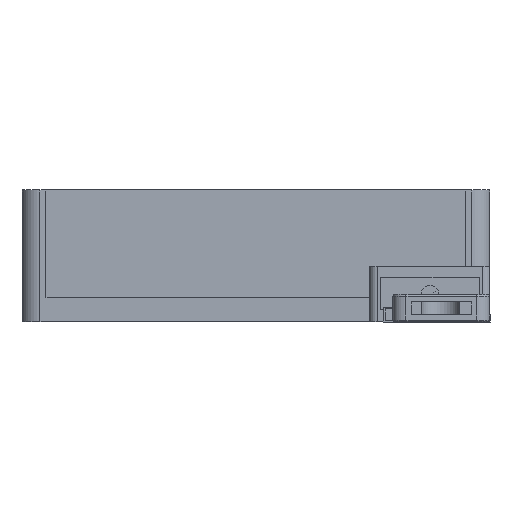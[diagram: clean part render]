
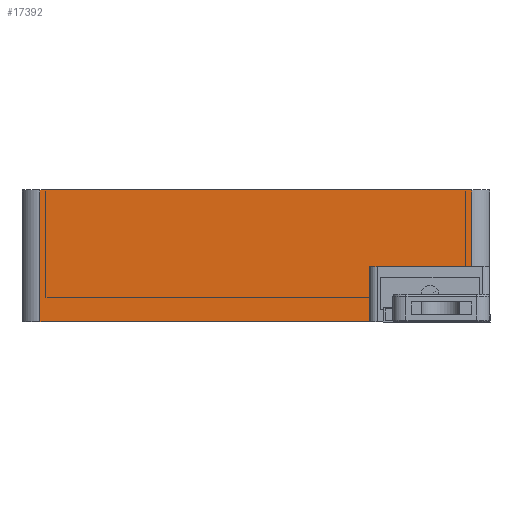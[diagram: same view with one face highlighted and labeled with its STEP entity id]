
A CAD part, left-side view. The second image highlights one B-rep face of the part: STEP entity #17392.
In plain terms, the highlighted planar face has unit normal (-1, 0, 0).
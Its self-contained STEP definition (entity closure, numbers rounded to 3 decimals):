
#17392 = ADVANCED_FACE('',(#17393),#17407,.F.);
#17393 = FACE_BOUND('',#17394,.F.);
#17394 = EDGE_LOOP('',(#17395,#17430,#17458,#17486));
#17395 = ORIENTED_EDGE('',*,*,#17396,.F.);
#17396 = EDGE_CURVE('',#17397,#17399,#17401,.T.);
#17397 = VERTEX_POINT('',#17398);
#17398 = CARTESIAN_POINT('',(-84.,-36.,11.));
#17399 = VERTEX_POINT('',#17400);
#17400 = CARTESIAN_POINT('',(-84.,36.,11.));
#17401 = SURFACE_CURVE('',#17402,(#17406,#17418),.PCURVE_S1.);
#17402 = LINE('',#17403,#17404);
#17403 = CARTESIAN_POINT('',(-84.,-39.,11.));
#17404 = VECTOR('',#17405,1.);
#17405 = DIRECTION('',(0.,1.,0.));
#17406 = PCURVE('',#17407,#17412);
#17407 = PLANE('',#17408);
#17408 = AXIS2_PLACEMENT_3D('',#17409,#17410,#17411);
#17409 = CARTESIAN_POINT('',(-84.,-39.,-11.));
#17410 = DIRECTION('',(1.,0.,0.));
#17411 = DIRECTION('',(0.,0.,1.));
#17412 = DEFINITIONAL_REPRESENTATION('',(#17413),#17417);
#17413 = LINE('',#17414,#17415);
#17414 = CARTESIAN_POINT('',(22.,0.));
#17415 = VECTOR('',#17416,1.);
#17416 = DIRECTION('',(0.,-1.));
#17417 = ( GEOMETRIC_REPRESENTATION_CONTEXT(2) 
PARAMETRIC_REPRESENTATION_CONTEXT() REPRESENTATION_CONTEXT('2D SPACE',''
  ) );
#17418 = PCURVE('',#17419,#17424);
#17419 = PLANE('',#17420);
#17420 = AXIS2_PLACEMENT_3D('',#17421,#17422,#17423);
#17421 = CARTESIAN_POINT('',(-84.,-39.,11.));
#17422 = DIRECTION('',(0.,0.,1.));
#17423 = DIRECTION('',(1.,0.,0.));
#17424 = DEFINITIONAL_REPRESENTATION('',(#17425),#17429);
#17425 = LINE('',#17426,#17427);
#17426 = CARTESIAN_POINT('',(0.,0.));
#17427 = VECTOR('',#17428,1.);
#17428 = DIRECTION('',(0.,1.));
#17429 = ( GEOMETRIC_REPRESENTATION_CONTEXT(2) 
PARAMETRIC_REPRESENTATION_CONTEXT() REPRESENTATION_CONTEXT('2D SPACE',''
  ) );
#17430 = ORIENTED_EDGE('',*,*,#17431,.F.);
#17431 = EDGE_CURVE('',#17432,#17397,#17434,.T.);
#17432 = VERTEX_POINT('',#17433);
#17433 = CARTESIAN_POINT('',(-84.,-36.,-11.));
#17434 = SURFACE_CURVE('',#17435,(#17439,#17446),.PCURVE_S1.);
#17435 = LINE('',#17436,#17437);
#17436 = CARTESIAN_POINT('',(-84.,-36.,-11.));
#17437 = VECTOR('',#17438,1.);
#17438 = DIRECTION('',(0.,0.,1.));
#17439 = PCURVE('',#17407,#17440);
#17440 = DEFINITIONAL_REPRESENTATION('',(#17441),#17445);
#17441 = LINE('',#17442,#17443);
#17442 = CARTESIAN_POINT('',(0.,-3.));
#17443 = VECTOR('',#17444,1.);
#17444 = DIRECTION('',(1.,0.));
#17445 = ( GEOMETRIC_REPRESENTATION_CONTEXT(2) 
PARAMETRIC_REPRESENTATION_CONTEXT() REPRESENTATION_CONTEXT('2D SPACE',''
  ) );
#17446 = PCURVE('',#17447,#17452);
#17447 = CYLINDRICAL_SURFACE('',#17448,3.);
#17448 = AXIS2_PLACEMENT_3D('',#17449,#17450,#17451);
#17449 = CARTESIAN_POINT('',(-81.,-36.,-11.));
#17450 = DIRECTION('',(0.,0.,1.));
#17451 = DIRECTION('',(-1.,-0.,0.));
#17452 = DEFINITIONAL_REPRESENTATION('',(#17453),#17457);
#17453 = LINE('',#17454,#17455);
#17454 = CARTESIAN_POINT('',(0.,0.));
#17455 = VECTOR('',#17456,1.);
#17456 = DIRECTION('',(0.,1.));
#17457 = ( GEOMETRIC_REPRESENTATION_CONTEXT(2) 
PARAMETRIC_REPRESENTATION_CONTEXT() REPRESENTATION_CONTEXT('2D SPACE',''
  ) );
#17458 = ORIENTED_EDGE('',*,*,#17459,.T.);
#17459 = EDGE_CURVE('',#17432,#17460,#17462,.T.);
#17460 = VERTEX_POINT('',#17461);
#17461 = CARTESIAN_POINT('',(-84.,36.,-11.));
#17462 = SURFACE_CURVE('',#17463,(#17467,#17474),.PCURVE_S1.);
#17463 = LINE('',#17464,#17465);
#17464 = CARTESIAN_POINT('',(-84.,-39.,-11.));
#17465 = VECTOR('',#17466,1.);
#17466 = DIRECTION('',(0.,1.,0.));
#17467 = PCURVE('',#17407,#17468);
#17468 = DEFINITIONAL_REPRESENTATION('',(#17469),#17473);
#17469 = LINE('',#17470,#17471);
#17470 = CARTESIAN_POINT('',(0.,0.));
#17471 = VECTOR('',#17472,1.);
#17472 = DIRECTION('',(0.,-1.));
#17473 = ( GEOMETRIC_REPRESENTATION_CONTEXT(2) 
PARAMETRIC_REPRESENTATION_CONTEXT() REPRESENTATION_CONTEXT('2D SPACE',''
  ) );
#17474 = PCURVE('',#17475,#17480);
#17475 = PLANE('',#17476);
#17476 = AXIS2_PLACEMENT_3D('',#17477,#17478,#17479);
#17477 = CARTESIAN_POINT('',(-84.,-39.,-11.));
#17478 = DIRECTION('',(0.,0.,1.));
#17479 = DIRECTION('',(1.,0.,0.));
#17480 = DEFINITIONAL_REPRESENTATION('',(#17481),#17485);
#17481 = LINE('',#17482,#17483);
#17482 = CARTESIAN_POINT('',(0.,0.));
#17483 = VECTOR('',#17484,1.);
#17484 = DIRECTION('',(0.,1.));
#17485 = ( GEOMETRIC_REPRESENTATION_CONTEXT(2) 
PARAMETRIC_REPRESENTATION_CONTEXT() REPRESENTATION_CONTEXT('2D SPACE',''
  ) );
#17486 = ORIENTED_EDGE('',*,*,#17487,.T.);
#17487 = EDGE_CURVE('',#17460,#17399,#17488,.T.);
#17488 = SURFACE_CURVE('',#17489,(#17493,#17500),.PCURVE_S1.);
#17489 = LINE('',#17490,#17491);
#17490 = CARTESIAN_POINT('',(-84.,36.,-11.));
#17491 = VECTOR('',#17492,1.);
#17492 = DIRECTION('',(0.,0.,1.));
#17493 = PCURVE('',#17407,#17494);
#17494 = DEFINITIONAL_REPRESENTATION('',(#17495),#17499);
#17495 = LINE('',#17496,#17497);
#17496 = CARTESIAN_POINT('',(0.,-75.));
#17497 = VECTOR('',#17498,1.);
#17498 = DIRECTION('',(1.,0.));
#17499 = ( GEOMETRIC_REPRESENTATION_CONTEXT(2) 
PARAMETRIC_REPRESENTATION_CONTEXT() REPRESENTATION_CONTEXT('2D SPACE',''
  ) );
#17500 = PCURVE('',#17501,#17506);
#17501 = CYLINDRICAL_SURFACE('',#17502,3.);
#17502 = AXIS2_PLACEMENT_3D('',#17503,#17504,#17505);
#17503 = CARTESIAN_POINT('',(-81.,36.,-11.));
#17504 = DIRECTION('',(0.,0.,1.));
#17505 = DIRECTION('',(-1.,-0.,0.));
#17506 = DEFINITIONAL_REPRESENTATION('',(#17507),#17511);
#17507 = LINE('',#17508,#17509);
#17508 = CARTESIAN_POINT('',(-0.,0.));
#17509 = VECTOR('',#17510,1.);
#17510 = DIRECTION('',(-0.,1.));
#17511 = ( GEOMETRIC_REPRESENTATION_CONTEXT(2) 
PARAMETRIC_REPRESENTATION_CONTEXT() REPRESENTATION_CONTEXT('2D SPACE',''
  ) );
